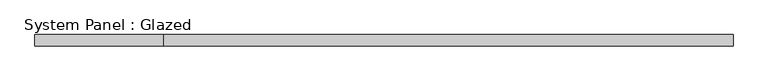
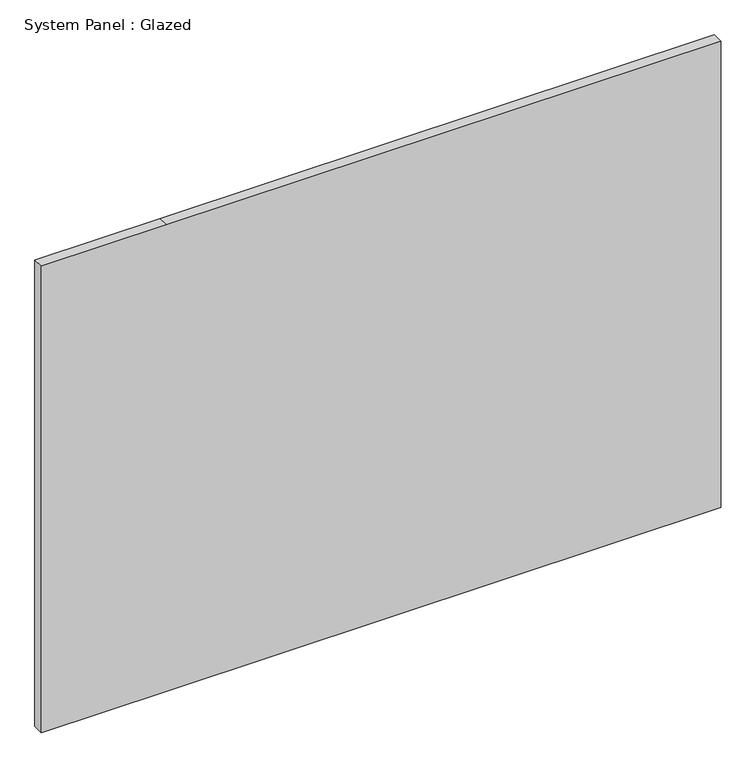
"""IFC4 building model written with IfcOpenShell, lengths in millimetres: plate geometry, System Panel : Glazed."""

from ifc_helpers import new_model, si_unit, frame, origin, place, context, project, spatial, polyline, outline, extrude, source, transform, mapped, element, save


def system_panel_glazed_835a6d4f(model_context):
    return source(origin(), model_context, "Body", "SweptSolid", [
        extrude(outline(polyline([(0.0, -774.7), (0.0, -488.95), (0.0, 774.7), (1123.95, 774.7), (1123.95, -488.95), (1123.95, -774.7), (0.0, -774.7)])), frame((0.0, 19.05, 0.0), z_axis=(0.0, 1.0, 0.0), x_axis=(0.0, 0.0, 1.0)), (0.0, 0.0, 1.0), 25.4),
    ])


if __name__ == "__main__":
    model = new_model("IFC4")
    model_context = context("Model", 3, world=origin())
    ifc_project = project(units=[si_unit("LENGTHUNIT", "METRE", prefix="MILLI")], contexts=[model_context])
    site = spatial("IfcSite", under=ifc_project)
    building = spatial("IfcBuilding", under=site)
    placement = place(None, origin())
    system_panel_glazed_shape = system_panel_glazed_835a6d4f(model_context)
    element("IfcPlate", 1, ObjectType="System Panel : Glazed", at=placement, inside=building, context=model_context, shape_type="MappedRepresentation", body=[
        mapped(system_panel_glazed_shape, transform((0.0, 0.0, 0.0), x_axis=(1.0, 0.0, 0.0), y_axis=(0.0, 1.0, 0.0), z_axis=(0.0, 0.0, 1.0))),
    ])
    save(model, "model.ifc")
